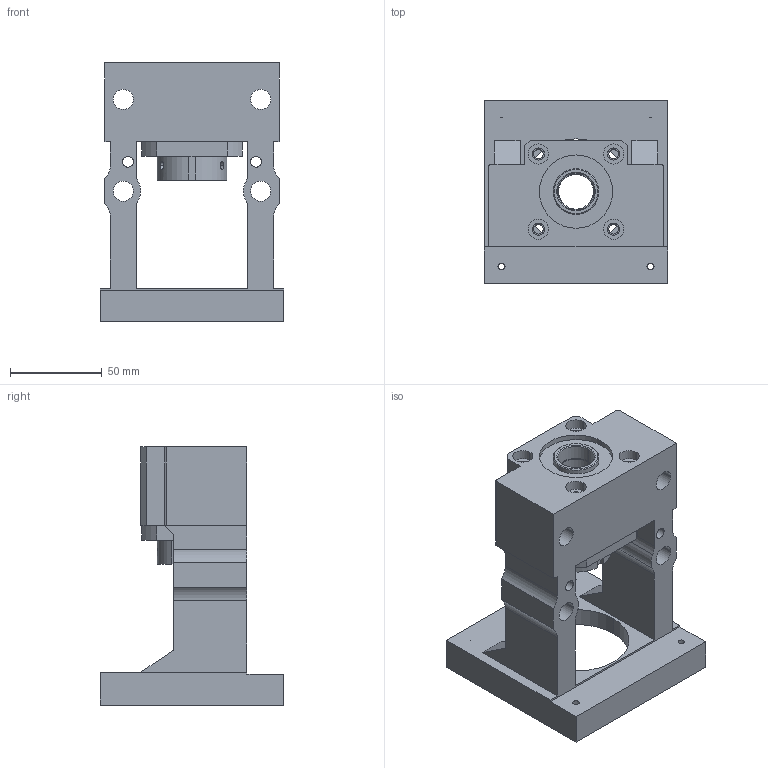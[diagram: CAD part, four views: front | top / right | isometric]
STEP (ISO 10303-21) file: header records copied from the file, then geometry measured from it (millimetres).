
FILE_DESCRIPTION((''),'2;1');
FILE_NAME('M100Y-AK20-C_ASM','2019-12-30T',('ASUS'),(''),'PRO/ENGINEER BY PARAMETRIC TECHNOLOGY CORPORATION, 2010280','PRO/ENGINEER BY PARAMETRIC TECHNOLOGY CORPORATION, 2010280','');
FILE_SCHEMA(('CONFIG_CONTROL_DESIGN'));
Length unit declared in the file: millimetre
Products named in the file (7): PRT0001; NF_M20X1; MBCS20-X-02; _MBCS20-Y; M100Y-AK20C_ASM_ASM; M100Y-AK20-C_ASM_ASM; M100Y-AK20-C_ASM
Assembly tree (7 placements, depth 4):
  M100Y-AK20-C_ASM
    M100Y-AK20-C_ASM_ASM
      M100Y-AK20C_ASM_ASM
        PRT0001
        NF_M20X1
        MBCS20-X-02  x2
        _MBCS20-Y
Bounding box: 100 x 100 x 141 mm (x, y, z)
Volume: 383573.2 mm3; surface area: 95008.2 mm2
Topology: 5 solids, 5 shells, 207 faces, 554 edges, 371 vertices
Faces by surface type: cylinder 109, plane 74, cone 24
Entity records: 6704 total; most frequent: CARTESIAN_POINT 1275, DIRECTION 1189, ORIENTED_EDGE 1052, EDGE_CURVE 526, AXIS2_PLACEMENT_3D 462, VERTEX_POINT 355, VECTOR 265, LINE 265
